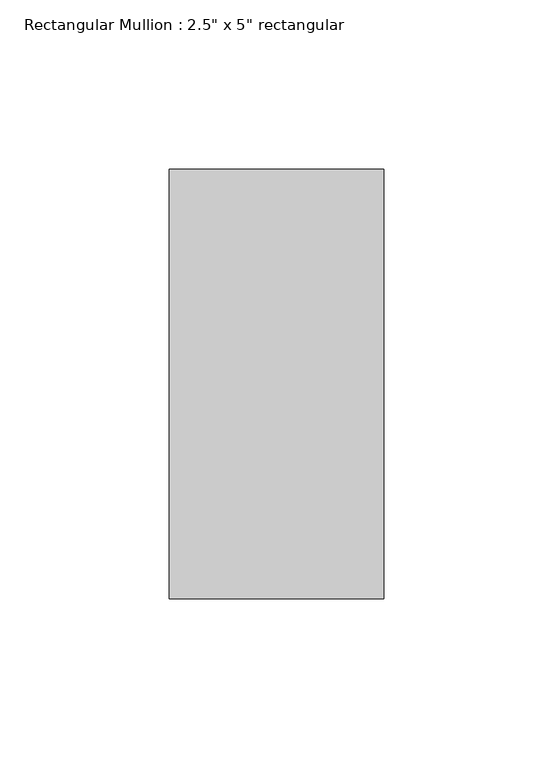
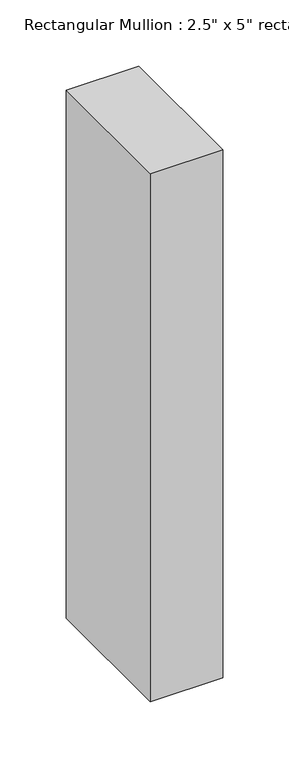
"""IFC4 building model written with IfcOpenShell, lengths in millimetres: member geometry."""

from ifc_helpers import new_model, si_unit, frame, origin, place, context, project, spatial, polyline, outline, extrude, source, transform, mapped, element, save


def member_39770417(model_context):
    return source(origin(), model_context, "Body", "SweptSolid", [
        extrude(outline(polyline([(31.75, 63.5), (31.75, -63.5), (-31.75, -63.5), (-31.75, 63.5), (31.75, 63.5)])), frame((0.0, 0.0, -487.68), z_axis=(0.0, 0.0, 1.0), x_axis=(1.0, 0.0, 0.0)), (0.0, 0.0, 1.0), 487.68),
    ])


if __name__ == "__main__":
    model = new_model("IFC4")
    model_context = context("Model", 3, world=origin())
    ifc_project = project(units=[si_unit("LENGTHUNIT", "METRE", prefix="MILLI")], contexts=[model_context])
    site = spatial("IfcSite", under=ifc_project)
    building = spatial("IfcBuilding", under=site)
    placement = place(None, origin())
    member_shape = member_39770417(model_context)
    element("IfcMember", 1, ObjectType="Rectangular Mullion : 2.5\" x 5\" rectangular", at=placement, inside=building, context=model_context, shape_type="MappedRepresentation", body=[
        mapped(member_shape, transform((0.0, 0.0, 0.0), x_axis=(1.0, 0.0, 0.0), y_axis=(0.0, 1.0, 0.0), z_axis=(0.0, 0.0, 1.0))),
    ])
    save(model, "model.ifc")
